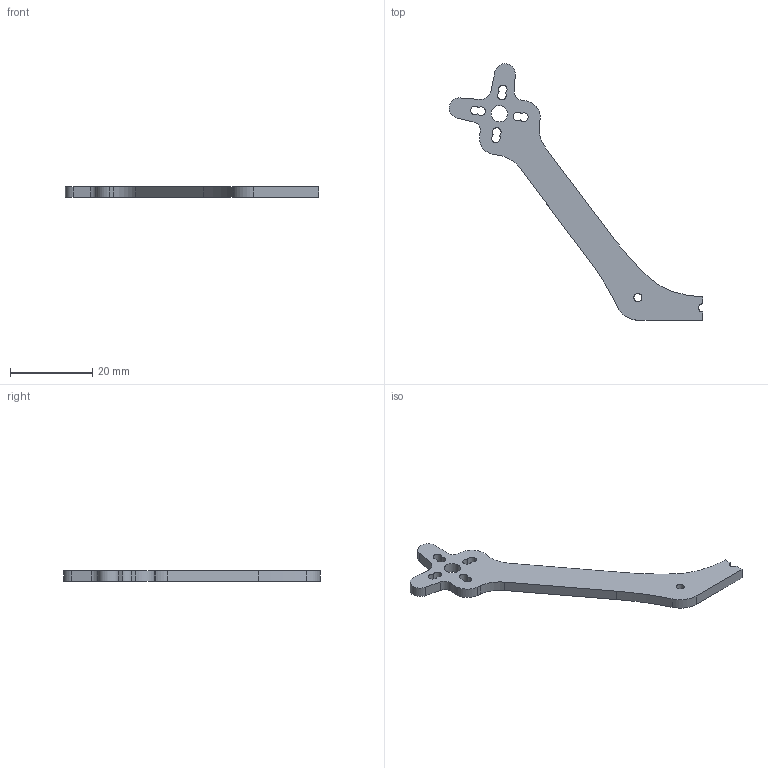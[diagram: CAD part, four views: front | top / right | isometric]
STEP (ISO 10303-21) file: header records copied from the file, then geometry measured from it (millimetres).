
FILE_DESCRIPTION(/* description */ (''),/* implementation_level */ '2;1');
FILE_NAME(/* name */ 'GoFlyPro - 3.6-Zoll - Arm - 9and12mm.step',/* time_stamp */ '2026-07-04T12:27:13+02:00',/* author */ (''),/* organization */ (''),/* preprocessor_version */ 'ST-DEVELOPER v20.1',/* originating_system */ 'Autodesk Translation Framework v15.8.0.0',/* authorisation */ '');
FILE_SCHEMA (('AUTOMOTIVE_DESIGN { 1 0 10303 214 3 1 1 }'));
Length unit declared in the file: millimetre
Products named in the file (1): GoFlyPro - 3.6-Zoll - Arm - 9and12mm
Bounding box: 61.61 x 62.38 x 2.5 mm (x, y, z)
Volume: 1804.3 mm3; surface area: 2081.7 mm2
Topology: 1 solids, 1 shells, 39 faces, 111 edges, 74 vertices
Faces by surface type: cylinder 21, plane 15, bspline 3
Full cylindrical faces by diameter (mm): 2 x1, 4 x1
Entity records: 1362 total; most frequent: CARTESIAN_POINT 240, DIRECTION 233, ORIENTED_EDGE 222, EDGE_CURVE 111, AXIS2_PLACEMENT_3D 85, VERTEX_POINT 74, LINE 63, VECTOR 63
